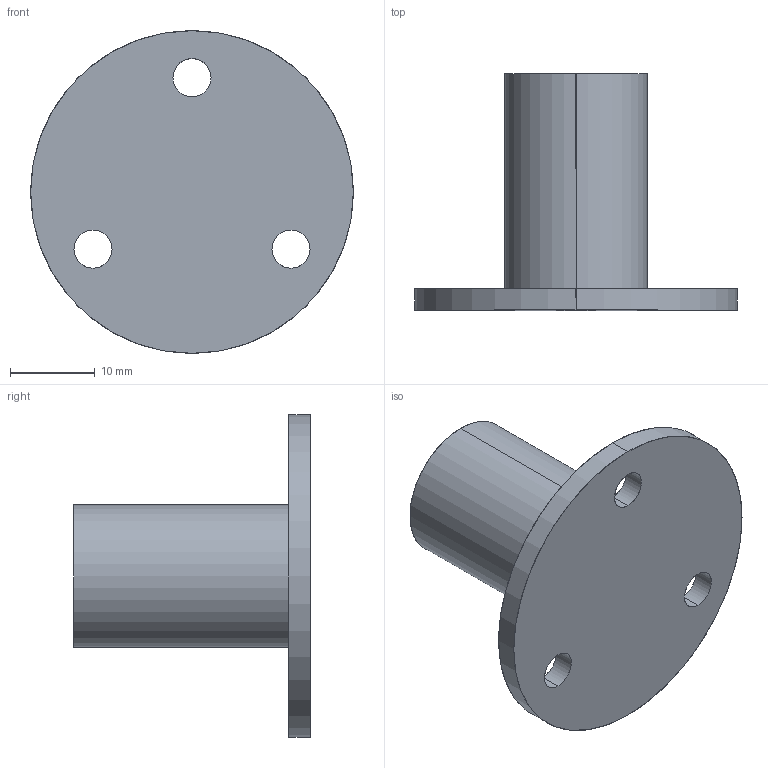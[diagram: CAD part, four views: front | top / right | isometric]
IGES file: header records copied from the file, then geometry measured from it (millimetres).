
Start section: SolidWorks IGES file using analytic representation for surfaces
Global section: file name: C:\Working\.5 Inch Coupling\DRP-002-0103-01.IGS; native system: SolidWorks 2010; preprocessor: SolidWorks 2010; author: mbush2; date: 100812.103103; units: inch
Bounding box: 38.1 x 27.94 x 38.1 mm (x, y, z)
Surface area: 4891.2 mm2 (no closed solid volume)
Topology: 0 solids, 0 shells, 16 faces, 496 edges, 496 vertices
Faces by surface type: revolution 12, bspline 4
